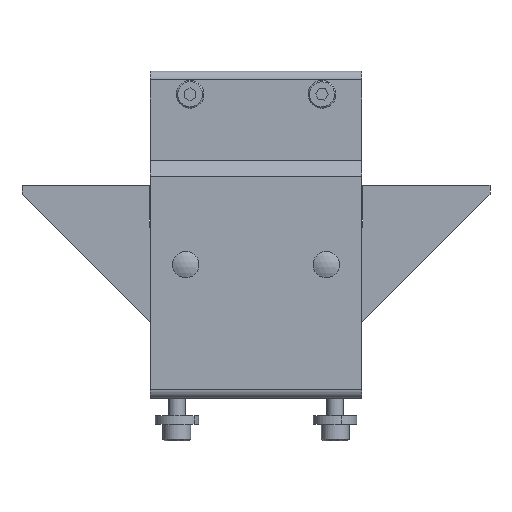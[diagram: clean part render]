
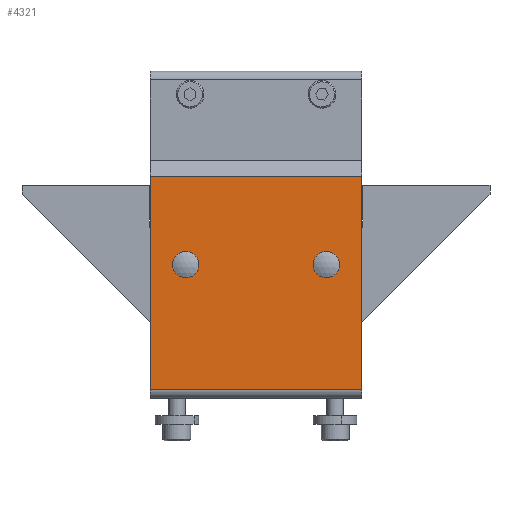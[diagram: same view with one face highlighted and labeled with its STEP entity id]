
A CAD part, top view. The second image highlights one B-rep face of the part: STEP entity #4321.
In plain terms, the highlighted planar face has unit normal (0, 0, 1) as drawn and (0, 0, -1) by its records, which use the part's own axes.
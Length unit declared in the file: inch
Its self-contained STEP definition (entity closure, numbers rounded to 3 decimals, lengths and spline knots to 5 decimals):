
#3512=DIRECTION('',(0.,-1.,0.));
#3513=VECTOR('',#3512,3.03);
#3514=CARTESIAN_POINT('',(-1.5,3.155,0.));
#3515=LINE('',#3514,#3513);
#3610=DIRECTION('',(0.,-1.,0.));
#3611=VECTOR('',#3610,3.03);
#3612=CARTESIAN_POINT('',(1.5,3.155,0.));
#3613=LINE('',#3612,#3611);
#3614=DIRECTION('',(1.,0.,0.));
#3615=VECTOR('',#3614,3.);
#3616=CARTESIAN_POINT('',(-1.5,3.155,0.));
#3617=LINE('',#3616,#3615);
#3618=CARTESIAN_POINT('',(-1.,1.898,0.));
#3619=DIRECTION('',(0.,0.,1.));
#3620=DIRECTION('',(1.,0.,0.));
#3621=AXIS2_PLACEMENT_3D('',#3618,#3619,#3620);
#3623=CARTESIAN_POINT('',(-1.,1.898,0.));
#3624=DIRECTION('',(0.,0.,1.));
#3625=DIRECTION('',(-1.,0.,0.));
#3626=AXIS2_PLACEMENT_3D('',#3623,#3624,#3625);
#3628=CARTESIAN_POINT('',(1.,1.898,0.));
#3629=DIRECTION('',(0.,0.,1.));
#3630=DIRECTION('',(1.,0.,0.));
#3631=AXIS2_PLACEMENT_3D('',#3628,#3629,#3630);
#3633=CARTESIAN_POINT('',(1.,1.898,0.));
#3634=DIRECTION('',(0.,0.,1.));
#3635=DIRECTION('',(-1.,0.,0.));
#3636=AXIS2_PLACEMENT_3D('',#3633,#3634,#3635);
#3960=DIRECTION('',(1.,0.,0.));
#3961=VECTOR('',#3960,3.);
#3962=CARTESIAN_POINT('',(-1.5,0.125,0.));
#3963=LINE('',#3962,#3961);
#3984=CARTESIAN_POINT('',(0.903,1.898,0.));
#3986=VERTEX_POINT('',#3984);
#4010=CARTESIAN_POINT('',(1.097,1.898,0.));
#4012=VERTEX_POINT('',#4010);
#4022=CARTESIAN_POINT('',(-1.097,1.898,0.));
#4024=VERTEX_POINT('',#4022);
#4056=CARTESIAN_POINT('',(1.5,3.155,0.));
#4057=CARTESIAN_POINT('',(1.5,0.125,0.));
#4058=VERTEX_POINT('',#4056);
#4059=VERTEX_POINT('',#4057);
#4077=CARTESIAN_POINT('',(-1.5,3.155,0.));
#4079=VERTEX_POINT('',#4077);
#4084=CARTESIAN_POINT('',(-1.5,0.125,0.));
#4085=VERTEX_POINT('',#4084);
#4088=CARTESIAN_POINT('',(-0.903,1.898,0.));
#4089=VERTEX_POINT('',#4088);
#4296=CARTESIAN_POINT('',(1.5,0.,0.));
#4297=DIRECTION('',(0.,0.,1.));
#4298=DIRECTION('',(1.,0.,0.));
#4299=AXIS2_PLACEMENT_3D('',#4296,#4297,#4298);
#4300=PLANE('',#4299);
#4301=ORIENTED_EDGE('',*,*,#4196,.F.);
#4303=ORIENTED_EDGE('',*,*,#4302,.F.);
#4304=ORIENTED_EDGE('',*,*,#4247,.T.);
#4306=ORIENTED_EDGE('',*,*,#4305,.T.);
#4307=EDGE_LOOP('',(#4301,#4303,#4304,#4306));
#4308=FACE_OUTER_BOUND('',#4307,.F.);
#4310=ORIENTED_EDGE('',*,*,#4309,.F.);
#4312=ORIENTED_EDGE('',*,*,#4311,.F.);
#4313=EDGE_LOOP('',(#4310,#4312));
#4314=FACE_BOUND('',#4313,.F.);
#4316=ORIENTED_EDGE('',*,*,#4315,.F.);
#4318=ORIENTED_EDGE('',*,*,#4317,.F.);
#4319=EDGE_LOOP('',(#4316,#4318));
#4320=FACE_BOUND('',#4319,.F.);
#3622=CIRCLE('',#3621,0.097);
#3627=CIRCLE('',#3626,0.097);
#3632=CIRCLE('',#3631,0.097);
#3637=CIRCLE('',#3636,0.097);
#4196=EDGE_CURVE('',#4058,#4059,#3613,.T.);
#4247=EDGE_CURVE('',#4079,#4085,#3515,.T.);
#4302=EDGE_CURVE('',#4079,#4058,#3617,.T.);
#4305=EDGE_CURVE('',#4085,#4059,#3963,.T.);
#4309=EDGE_CURVE('',#4089,#4024,#3622,.T.);
#4311=EDGE_CURVE('',#4024,#4089,#3627,.T.);
#4315=EDGE_CURVE('',#4012,#3986,#3632,.T.);
#4317=EDGE_CURVE('',#3986,#4012,#3637,.T.);
#4321=ADVANCED_FACE('',(#4308,#4314,#4320),#4300,.F.);
